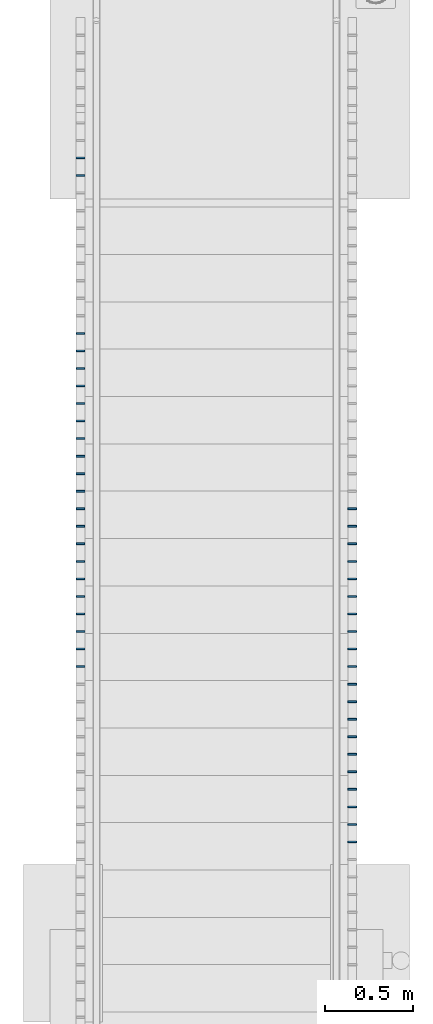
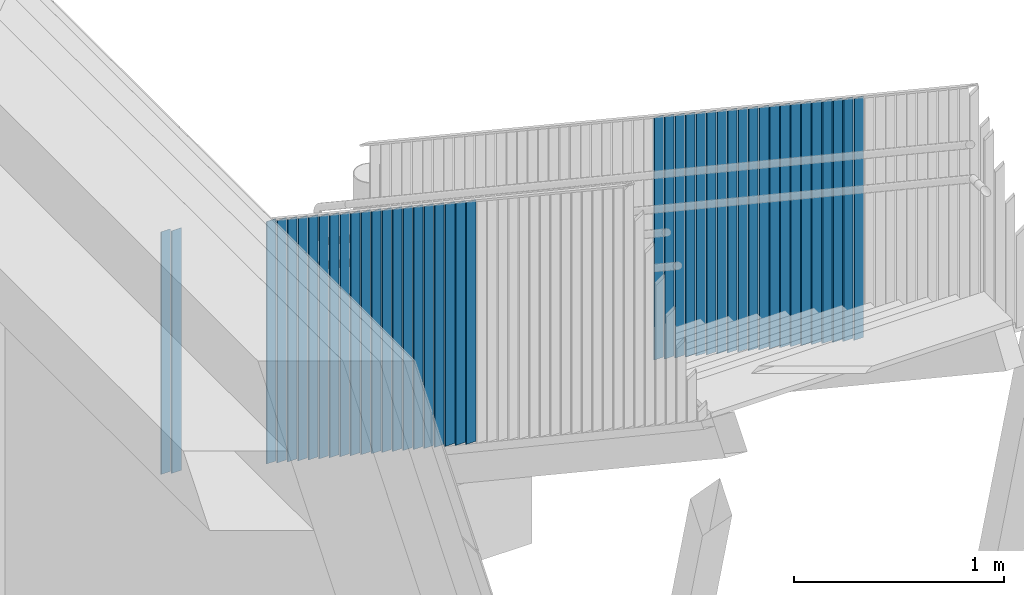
# One storey, part 79 of 418: 42 members, 2 elements without a shape of their own.
"""IFC2X3 building model written with IfcOpenShell, lengths in millimetres."""

from ifc_helpers import new_model, entity, si_unit, converted_unit, derived_unit, money_unit, direction, frame, origin_with_axes, place, context, subcontext, project, spatial, faceted_brep, material, type_object, element, aggregate, save


model = new_model("IFC2X3")

# Units and contexts
model_context = context("Model", 3, precision=0.01, world=origin_with_axes(), true_north=direction((0.0, 1.0)))
body_context = subcontext(model_context, "Body", "Model", "MODEL_VIEW")
ifc_project = project(units=[si_unit("LENGTHUNIT", "METRE", prefix="MILLI"), si_unit("AREAUNIT", "SQUARE_METRE"), si_unit("VOLUMEUNIT", "CUBIC_METRE"), converted_unit("PLANEANGLEUNIT", "DEGREE", entity("IfcPlaneAngleMeasure", 0.0174532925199), si_unit("PLANEANGLEUNIT", "RADIAN"), dimensions=[0, 0, 0, 0, 0, 0, 0]), si_unit("SOLIDANGLEUNIT", "STERADIAN"), money_unit("EUR"), converted_unit("TIMEUNIT", "Year", entity("IfcTimeMeasure", 31556926.0), si_unit("TIMEUNIT", "SECOND"), dimensions=[0, 0, 1, 0, 0, 0, 0]), si_unit("MASSUNIT", "GRAM", prefix="KILO"), si_unit("THERMODYNAMICTEMPERATUREUNIT", "DEGREE_CELSIUS"), si_unit("LUMINOUSINTENSITYUNIT", "LUMEN"), si_unit("ENERGYUNIT", "JOULE", prefix="MEGA"), derived_unit("THERMALCONDUCTANCEUNIT", [(si_unit("POWERUNIT", "WATT"), 1), (si_unit("LENGTHUNIT", "METRE"), -1), (si_unit("THERMODYNAMICTEMPERATUREUNIT", "KELVIN"), -1)]), derived_unit("SPECIFICHEATCAPACITYUNIT", [(si_unit("ENERGYUNIT", "JOULE"), 1), (si_unit("MASSUNIT", "GRAM", prefix="KILO"), -1), (si_unit("THERMODYNAMICTEMPERATUREUNIT", "KELVIN"), -1)]), derived_unit("MASSDENSITYUNIT", [(si_unit("MASSUNIT", "GRAM", prefix="KILO"), 1), (si_unit("VOLUMEUNIT", "CUBIC_METRE"), -1)])], contexts=[model_context])

# Site, building, storey
site_placement = place(None, origin_with_axes())
site = spatial("IfcSite", under=ifc_project, at=site_placement, Name="Paldiski mnt 245/1, Tallinn, Harjumaa", CompositionType="COMPLEX")
building_placement = place(site_placement, origin_with_axes())
building = spatial("IfcBuilding", under=site, at=building_placement, Name="RKAS Hoone üldnimetus (kasutust iseloomustav) -> IFC Project Manager -> SOLIBRI", CompositionType="ELEMENT")
storey_placement = place(building_placement, origin_with_axes())
storey = spatial("IfcBuildingStorey", under=building, at=storey_placement, Name="Esimene korrus", CompositionType="ELEMENT", Elevation=0.0)

# Railing, members
railing_type = type_object("IfcRailingType", Name="Railing Type", PredefinedType="NOTDEFINED")
railing_1_placement = place(storey_placement, frame((-15438.0000282, 781.88210964, -670.434782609), z_axis=(0.0, 0.0, 1.0), x_axis=(-0.773149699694, -0.634223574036, 0.0)))
railing_1 = element("IfcRailing", 1, at=railing_1_placement, inside=storey, type_object=railing_type, Name="Trepipiire", PredefinedType="NOTDEFINED")
ifc_material = material(Name="RAL7016")
member_type = type_object("IfcMemberType", Name="IfcMember", PredefinedType="POST")
member_1_placement = place(railing_1_placement, frame((-158.253858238, -232.337505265, 232.045088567), z_axis=(0.0, 0.0, 1.0), x_axis=(-0.773149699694, 0.634223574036, 0.0)))
member_1 = element("IfcMember", 2, at=member_1_placement, type_object=member_type, material=ifc_material, Name="Balustraad - 001", ObjectType="POST", context=body_context, shape_type="Brep", body=[
    faceted_brep([(25.0, -5.0, 85.0563604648), (25.0, 5.0, 78.3896937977), (25.0, 5.0, 1486.6747182), (25.0, -5.0, 1493.3252818), (-24.9999853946, 5.0, 78.3896937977), (-24.9999854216, -5.0, 85.0563604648), (-25.0, 5.0, 1486.6747182), (-25.0, -5.0, 1493.3252818)], [[[0, 1, 2, 3]], [[4, 1, 0, 5]], [[1, 4, 6, 2]], [[6, 7, 3, 2]], [[5, 0, 3, 7]], [[4, 5, 7, 6]]]),
])
member_2_placement = place(railing_1_placement, frame((-94.8315008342, -155.022535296, 298.550724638), z_axis=(0.0, 0.0, 1.0), x_axis=(-0.773149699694, 0.634223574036, 0.0)))
member_2 = element("IfcMember", 3, at=member_2_placement, type_object=member_type, material=ifc_material, Name="Balustraad - 001", ObjectType="POST", context=body_context, shape_type="Brep", body=[
    faceted_brep([(25.0, -5.0, 85.2173910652), (25.0, 5.0, 78.5507243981), (25.0, 5.0, 1486.6747182), (25.0, -5.0, 1493.3252818), (-24.9999856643, 5.0, 78.5507243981), (-24.9999856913, -5.0, 85.2173910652), (-25.0, 5.0, 1486.6747182), (-25.0, -5.0, 1493.3252818)], [[[0, 1, 2, 3]], [[4, 1, 0, 5]], [[1, 4, 6, 2]], [[6, 7, 3, 2]], [[5, 0, 3, 7]], [[4, 5, 7, 6]]]),
])
member_3_placement = place(railing_1_placement, frame((475.969715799, 540.812194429, 897.101449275), z_axis=(0.0, 0.0, 1.0), x_axis=(-0.773149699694, 0.634223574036, 0.0)))
member_3 = element("IfcMember", 4, at=member_3_placement, type_object=member_type, material=ifc_material, Name="Balustraad - 001", ObjectType="POST", context=body_context, shape_type="Brep", body=[
    faceted_brep([(25.0, -5.0, 86.6666664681), (25.0, 5.0, 79.9999998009), (25.0, 5.0, 1486.6747182), (25.0, -5.0, 1493.3252818), (-24.9999880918, 5.0, 79.9999998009), (-24.9999881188, -5.0, 86.6666664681), (-25.0, 5.0, 1486.6747182), (-25.0, -5.0, 1493.3252818)], [[[0, 1, 2, 3]], [[4, 1, 0, 5]], [[1, 4, 6, 2]], [[6, 7, 3, 2]], [[5, 0, 3, 7]], [[4, 5, 7, 6]]]),
])
member_4_placement = place(railing_1_placement, frame((539.392073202, 618.127164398, 963.607085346), z_axis=(0.0, 0.0, 1.0), x_axis=(-0.773149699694, 0.634223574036, 0.0)))
member_4 = element("IfcMember", 5, at=member_4_placement, type_object=member_type, material=ifc_material, Name="Balustraad - 001", ObjectType="POST", context=body_context, shape_type="Brep", body=[
    faceted_brep([(25.0, -5.0, 86.8276970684), (25.0, 5.0, 80.1610304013), (25.0, 5.0, 1486.6747182), (25.0, -5.0, 1493.3252818), (-24.9999883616, 5.0, 80.1610304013), (-24.9999883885, -5.0, 86.8276970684), (-25.0, 5.0, 1486.6747182), (-25.0, -5.0, 1493.3252818)], [[[0, 1, 2, 3]], [[4, 1, 0, 5]], [[1, 4, 6, 2]], [[6, 7, 3, 2]], [[5, 0, 3, 7]], [[4, 5, 7, 6]]]),
])
member_5_placement = place(railing_1_placement, frame((602.814430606, 695.442134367, 1030.11272142), z_axis=(0.0, 0.0, 1.0), x_axis=(-0.773149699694, 0.634223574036, 0.0)))
member_5 = element("IfcMember", 6, at=member_5_placement, type_object=member_type, material=ifc_material, Name="Balustraad - 001", ObjectType="POST", context=body_context, shape_type="Brep", body=[
    faceted_brep([(25.0, -5.0, 86.9887276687), (25.0, 5.0, 80.3220610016), (25.0, 5.0, 1486.6747182), (25.0, -5.0, 1493.3252818), (-24.9999886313, 5.0, 80.3220610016), (-24.9999886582, -5.0, 86.9887276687), (-25.0, 5.0, 1486.6747182), (-25.0, -5.0, 1493.3252818)], [[[0, 1, 2, 3]], [[4, 1, 0, 5]], [[1, 4, 6, 2]], [[6, 7, 3, 2]], [[5, 0, 3, 7]], [[4, 5, 7, 6]]]),
])
member_6_placement = place(railing_1_placement, frame((666.236788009, 772.757104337, 1096.61835749), z_axis=(0.0, 0.0, 1.0), x_axis=(-0.773149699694, 0.634223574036, 0.0)))
member_6 = element("IfcMember", 7, at=member_6_placement, type_object=member_type, material=ifc_material, Name="Balustraad - 001", ObjectType="POST", context=body_context, shape_type="Brep", body=[
    faceted_brep([(25.0, -5.0, 87.149758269), (25.0, 5.0, 80.4830916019), (25.0, 5.0, 1486.6747182), (25.0, -5.0, 1493.3252818), (-24.999988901, 5.0, 80.4830916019), (-24.999988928, -5.0, 87.149758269), (-25.0, 5.0, 1486.6747182), (-25.0, -5.0, 1493.3252818)], [[[0, 1, 2, 3]], [[4, 1, 0, 5]], [[1, 4, 6, 2]], [[6, 7, 3, 2]], [[5, 0, 3, 7]], [[4, 5, 7, 6]]]),
])
member_7_placement = place(railing_1_placement, frame((729.659145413, 850.072074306, 1163.12399356), z_axis=(0.0, 0.0, 1.0), x_axis=(-0.773149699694, 0.634223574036, 0.0)))
member_7 = element("IfcMember", 8, at=member_7_placement, type_object=member_type, material=ifc_material, Name="Balustraad - 001", ObjectType="POST", context=body_context, shape_type="Brep", body=[
    faceted_brep([(25.0, -5.0, 87.3107888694), (25.0, 5.0, 80.6441222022), (25.0, 5.0, 1486.6747182), (25.0, -5.0, 1493.3252818), (-24.9999891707, 5.0, 80.6441222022), (-24.9999891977, -5.0, 87.3107888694), (-25.0, 5.0, 1486.6747182), (-25.0, -5.0, 1493.3252818)], [[[0, 1, 2, 3]], [[4, 1, 0, 5]], [[1, 4, 6, 2]], [[6, 7, 3, 2]], [[5, 0, 3, 7]], [[4, 5, 7, 6]]]),
])
member_8_placement = place(railing_1_placement, frame((793.081502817, 927.387044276, 1229.62962963), z_axis=(0.0, 0.0, 1.0), x_axis=(-0.773149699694, 0.634223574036, 0.0)))
member_8 = element("IfcMember", 9, at=member_8_placement, type_object=member_type, material=ifc_material, Name="Balustraad - 001", ObjectType="POST", context=body_context, shape_type="Brep", body=[
    faceted_brep([(25.0, -5.0, 87.4718194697), (25.0, 5.0, 80.8051528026), (25.0, 5.0, 1486.6747182), (25.0, -5.0, 1493.3252818), (-24.9999894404, 5.0, 80.8051528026), (-24.9999894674, -5.0, 87.4718194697), (-25.0, 5.0, 1486.6747182), (-25.0, -5.0, 1493.3252818)], [[[0, 1, 2, 3]], [[4, 1, 0, 5]], [[1, 4, 6, 2]], [[6, 7, 3, 2]], [[5, 0, 3, 7]], [[4, 5, 7, 6]]]),
])
member_9_placement = place(railing_1_placement, frame((856.50386022, 1004.70201424, 1296.1352657), z_axis=(0.0, 0.0, 1.0), x_axis=(-0.773149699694, 0.634223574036, 0.0)))
member_9 = element("IfcMember", 10, at=member_9_placement, type_object=member_type, material=ifc_material, Name="Piirde Post - 001", ObjectType="POST", context=body_context, shape_type="Brep", body=[
    faceted_brep([(25.0, -5.0, 87.63285007), (25.0, 5.0, 80.9661834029), (25.0, 5.0, 1486.6747182), (25.0, -5.0, 1493.3252818), (-24.9999897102, 5.0, 80.9661834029), (-24.9999897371, -5.0, 87.63285007), (-25.0, 5.0, 1486.6747182), (-25.0, -5.0, 1493.3252818)], [[[0, 1, 2, 3]], [[4, 1, 0, 5]], [[1, 4, 6, 2]], [[6, 7, 3, 2]], [[5, 0, 3, 7]], [[4, 5, 7, 6]]]),
])
member_10_placement = place(railing_1_placement, frame((919.926217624, 1082.01698421, 1362.64090177), z_axis=(0.0, 0.0, 1.0), x_axis=(-0.773149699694, 0.634223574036, 0.0)))
member_10 = element("IfcMember", 11, at=member_10_placement, type_object=member_type, material=ifc_material, Name="Balustraad - 001", ObjectType="POST", context=body_context, shape_type="Brep", body=[
    faceted_brep([(25.0, -5.0, 87.7938806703), (25.0, 5.0, 81.1272140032), (25.0, 5.0, 1486.6747182), (25.0, -5.0, 1493.3252818), (-24.9999899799, 5.0, 81.1272140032), (-24.9999900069, -5.0, 87.7938806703), (-25.0, 5.0, 1486.6747182), (-25.0, -5.0, 1493.3252818)], [[[0, 1, 2, 3]], [[4, 1, 0, 5]], [[1, 4, 6, 2]], [[6, 7, 3, 2]], [[5, 0, 3, 7]], [[4, 5, 7, 6]]]),
])
member_11_placement = place(railing_1_placement, frame((983.348575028, 1159.33195418, 1429.14653784), z_axis=(0.0, 0.0, 1.0), x_axis=(-0.773149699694, 0.634223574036, 0.0)))
member_11 = element("IfcMember", 12, at=member_11_placement, type_object=member_type, material=ifc_material, Name="Balustraad - 001", ObjectType="POST", context=body_context, shape_type="Brep", body=[
    faceted_brep([(25.0, -5.0, 87.9549112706), (25.0, 5.0, 81.2882446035), (25.0, 5.0, 1486.6747182), (25.0, -5.0, 1493.3252818), (-24.9999902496, 5.0, 81.2882446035), (-24.9999902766, -5.0, 87.9549112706), (-25.0, 5.0, 1486.6747182), (-25.0, -5.0, 1493.3252818)], [[[0, 1, 2, 3]], [[4, 1, 0, 5]], [[1, 4, 6, 2]], [[6, 7, 3, 2]], [[5, 0, 3, 7]], [[4, 5, 7, 6]]]),
])
member_12_placement = place(railing_1_placement, frame((1046.77093243, 1236.64692415, 1495.65217391), z_axis=(0.0, 0.0, 1.0), x_axis=(-0.773149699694, 0.634223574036, 0.0)))
member_12 = element("IfcMember", 13, at=member_12_placement, type_object=member_type, material=ifc_material, Name="Balustraad - 001", ObjectType="POST", context=body_context, shape_type="Brep", body=[
    faceted_brep([(25.0, -5.0, 88.115941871), (25.0, 5.0, 81.4492752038), (25.0, 5.0, 1486.6747182), (25.0, -5.0, 1493.3252818), (-24.9999905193, 5.0, 81.4492752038), (-24.9999905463, -5.0, 88.115941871), (-25.0, 5.0, 1486.6747182), (-25.0, -5.0, 1493.3252818)], [[[0, 1, 2, 3]], [[4, 1, 0, 5]], [[1, 4, 6, 2]], [[6, 7, 3, 2]], [[5, 0, 3, 7]], [[4, 5, 7, 6]]]),
])
member_13_placement = place(railing_1_placement, frame((1110.19328983, 1313.96189412, 1562.15780998), z_axis=(0.0, 0.0, 1.0), x_axis=(-0.773149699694, 0.634223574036, 0.0)))
member_13 = element("IfcMember", 14, at=member_13_placement, type_object=member_type, material=ifc_material, Name="Balustraad - 001", ObjectType="POST", context=body_context, shape_type="Brep", body=[
    faceted_brep([(25.0, -5.0, 88.2769724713), (25.0, 5.0, 81.6103058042), (25.0, 5.0, 1486.6747182), (25.0, -5.0, 1493.3252818), (-24.999990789, 5.0, 81.6103058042), (-24.999990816, -5.0, 88.2769724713), (-25.0, 5.0, 1486.6747182), (-25.0, -5.0, 1493.3252818)], [[[0, 1, 2, 3]], [[4, 1, 0, 5]], [[1, 4, 6, 2]], [[6, 7, 3, 2]], [[5, 0, 3, 7]], [[4, 5, 7, 6]]]),
])
member_14_placement = place(railing_1_placement, frame((1173.61564724, 1391.27686409, 1628.66344605), z_axis=(0.0, 0.0, 1.0), x_axis=(-0.773149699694, 0.634223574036, 0.0)))
member_14 = element("IfcMember", 15, at=member_14_placement, type_object=member_type, material=ifc_material, Name="Balustraad - 001", ObjectType="POST", context=body_context, shape_type="Brep", body=[
    faceted_brep([(25.0, -5.0, 88.4380030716), (25.0, 5.0, 81.7713364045), (25.0, 5.0, 1486.6747182), (25.0, -5.0, 1493.3252818), (-24.9999910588, 5.0, 81.7713364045), (-24.9999910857, -5.0, 88.4380030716), (-25.0, 5.0, 1486.6747182), (-25.0, -5.0, 1493.3252818)], [[[0, 1, 2, 3]], [[4, 1, 0, 5]], [[1, 4, 6, 2]], [[6, 7, 3, 2]], [[5, 0, 3, 7]], [[4, 5, 7, 6]]]),
])
member_15_placement = place(railing_1_placement, frame((1237.03800464, 1468.59183406, 1695.16908213), z_axis=(0.0, 0.0, 1.0), x_axis=(-0.773149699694, 0.634223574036, 0.0)))
member_15 = element("IfcMember", 16, at=member_15_placement, type_object=member_type, material=ifc_material, Name="Balustraad - 001", ObjectType="POST", context=body_context, shape_type="Brep", body=[
    faceted_brep([(25.0, -5.0, 88.5990336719), (25.0, 5.0, 81.9323670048), (25.0, 5.0, 1486.6747182), (25.0, -5.0, 1493.3252818), (-24.9999913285, 5.0, 81.9323670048), (-24.9999913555, -5.0, 88.5990336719), (-25.0, 5.0, 1486.6747182), (-25.0, -5.0, 1493.3252818)], [[[0, 1, 2, 3]], [[4, 1, 0, 5]], [[1, 4, 6, 2]], [[6, 7, 3, 2]], [[5, 0, 3, 7]], [[4, 5, 7, 6]]]),
])
member_16_placement = place(railing_1_placement, frame((1300.46036205, 1545.90680403, 1761.6747182), z_axis=(0.0, 0.0, 1.0), x_axis=(-0.773149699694, 0.634223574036, 0.0)))
member_16 = element("IfcMember", 17, at=member_16_placement, type_object=member_type, material=ifc_material, Name="Balustraad - 001", ObjectType="POST", context=body_context, shape_type="Brep", body=[
    faceted_brep([(25.0, -5.0, 88.7600642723), (25.0, 5.0, 82.0933976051), (25.0, 5.0, 1486.6747182), (25.0, -5.0, 1493.3252818), (-24.9999915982, 5.0, 82.0933976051), (-24.9999916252, -5.0, 88.7600642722), (-25.0, 5.0, 1486.6747182), (-25.0, -5.0, 1493.3252818)], [[[0, 1, 2, 3]], [[4, 1, 0, 5]], [[1, 4, 6, 2]], [[6, 7, 3, 2]], [[5, 0, 3, 7]], [[4, 5, 7, 6]]]),
])
member_17_placement = place(railing_1_placement, frame((1363.88271945, 1623.221774, 1828.18035427), z_axis=(0.0, 0.0, 1.0), x_axis=(-0.773149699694, 0.634223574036, 0.0)))
member_17 = element("IfcMember", 18, at=member_17_placement, type_object=member_type, material=ifc_material, Name="Balustraad - 001", ObjectType="POST", context=body_context, shape_type="Brep", body=[
    faceted_brep([(25.0, -5.0, 88.9210948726), (25.0, 5.0, 82.2544282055), (25.0, 5.0, 1486.6747182), (25.0, -5.0, 1493.3252818), (-24.9999918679, 5.0, 82.2544282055), (-24.9999918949, -5.0, 88.9210948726), (-25.0, 5.0, 1486.6747182), (-25.0, -5.0, 1493.3252818)], [[[0, 1, 2, 3]], [[4, 1, 0, 5]], [[1, 4, 6, 2]], [[6, 7, 3, 2]], [[5, 0, 3, 7]], [[4, 5, 7, 6]]]),
])
member_18_placement = place(railing_1_placement, frame((1427.30507685, 1700.53674397, 1894.68599034), z_axis=(0.0, 0.0, 1.0), x_axis=(-0.773149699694, 0.634223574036, 0.0)))
member_18 = element("IfcMember", 19, at=member_18_placement, type_object=member_type, material=ifc_material, Name="Balustraad - 001", ObjectType="POST", context=body_context, shape_type="Brep", body=[
    faceted_brep([(25.0, -5.0, 89.0821254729), (25.0, 5.0, 82.4154588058), (25.0, 5.0, 1486.6747182), (25.0, -5.0, 1493.3252818), (-24.9999921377, 5.0, 82.4154588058), (-24.9999921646, -5.0, 89.0821254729), (-25.0, 5.0, 1486.6747182), (-25.0, -5.0, 1493.3252818)], [[[0, 1, 2, 3]], [[4, 1, 0, 5]], [[1, 4, 6, 2]], [[6, 7, 3, 2]], [[5, 0, 3, 7]], [[4, 5, 7, 6]]]),
])
member_19_placement = place(railing_1_placement, frame((1490.72743426, 1777.85171394, 1961.19162641), z_axis=(0.0, 0.0, 1.0), x_axis=(-0.773149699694, 0.634223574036, 0.0)))
member_19 = element("IfcMember", 20, at=member_19_placement, type_object=member_type, material=ifc_material, Name="Balustraad - 001", ObjectType="POST", context=body_context, shape_type="Brep", body=[
    faceted_brep([(25.0, -5.0, 89.2431560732), (25.0, 5.0, 82.5764894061), (25.0, 5.0, 1486.6747182), (25.0, -5.0, 1493.3252818), (-24.9999924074, 5.0, 82.5764894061), (-24.9999924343, -5.0, 89.2431560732), (-25.0, 5.0, 1486.6747182), (-25.0, -5.0, 1493.3252818)], [[[0, 1, 2, 3]], [[4, 1, 0, 5]], [[1, 4, 6, 2]], [[6, 7, 3, 2]], [[5, 0, 3, 7]], [[4, 5, 7, 6]]]),
])
member_20_placement = place(railing_1_placement, frame((1554.14979166, 1855.16668391, 2027.69726248), z_axis=(0.0, 0.0, 1.0), x_axis=(-0.773149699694, 0.634223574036, 0.0)))
member_20 = element("IfcMember", 21, at=member_20_placement, type_object=member_type, material=ifc_material, Name="Balustraad - 001", ObjectType="POST", context=body_context, shape_type="Brep", body=[
    faceted_brep([(25.0, -5.0, 89.4041866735), (25.0, 5.0, 82.7375200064), (25.0, 5.0, 1486.6747182), (25.0, -5.0, 1493.3252818), (-24.9999926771, 5.0, 82.7375200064), (-24.9999927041, -5.0, 89.4041866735), (-25.0, 5.0, 1486.6747182), (-25.0, -5.0, 1493.3252818)], [[[0, 1, 2, 3]], [[4, 1, 0, 5]], [[1, 4, 6, 2]], [[6, 7, 3, 2]], [[5, 0, 3, 7]], [[4, 5, 7, 6]]]),
])
member_21_placement = place(railing_1_placement, frame((1617.57214906, 1932.48165388, 2094.20289855), z_axis=(0.0, 0.0, 1.0), x_axis=(-0.773149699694, 0.634223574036, 0.0)))
member_21 = element("IfcMember", 22, at=member_21_placement, type_object=member_type, material=ifc_material, Name="Piirde Post - 001", ObjectType="POST", context=body_context, shape_type="Brep", body=[
    faceted_brep([(25.0, -5.0, 89.5652172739), (25.0, 5.0, 82.8985506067), (25.0, 5.0, 1486.6747182), (25.0, -5.0, 1493.3252818), (-24.9999929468, 5.0, 82.8985506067), (-24.9999929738, -5.0, 89.5652172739), (-25.0, 5.0, 1486.6747182), (-25.0, -5.0, 1493.3252818)], [[[0, 1, 2, 3]], [[4, 1, 0, 5]], [[1, 4, 6, 2]], [[6, 7, 3, 2]], [[5, 0, 3, 7]], [[4, 5, 7, 6]]]),
])
member_22_placement = place(railing_1_placement, frame((1680.99450647, 2009.79662385, 2160.70853462), z_axis=(0.0, 0.0, 1.0), x_axis=(-0.773149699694, 0.634223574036, 0.0)))
member_22 = element("IfcMember", 23, at=member_22_placement, type_object=member_type, material=ifc_material, Name="Balustraad - 001", ObjectType="POST", context=body_context, shape_type="Brep", body=[
    faceted_brep([(25.0, -5.0, 89.7262478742), (25.0, 5.0, 83.0595812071), (25.0, 5.0, 1486.6747182), (25.0, -5.0, 1493.3252818), (-24.9999932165, 5.0, 83.0595812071), (-24.9999932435, -5.0, 89.7262478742), (-25.0, 5.0, 1486.6747182), (-25.0, -5.0, 1493.3252818)], [[[0, 1, 2, 3]], [[4, 1, 0, 5]], [[1, 4, 6, 2]], [[6, 7, 3, 2]], [[5, 0, 3, 7]], [[4, 5, 7, 6]]]),
])
aggregate(railing_1, [member_1, member_2, member_3, member_4, member_5, member_6, member_7, member_8, member_9, member_10, member_11, member_12, member_13, member_14, member_15, member_16, member_17, member_18, member_19, member_20, member_21, member_22])

railing_2_placement = place(storey_placement, frame((-13938.0000282, 1623.82640275, -670.434782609), z_axis=(0.0, 0.0, 1.0), x_axis=(0.773149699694, 0.634223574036, 0.0)))
railing_2 = element("IfcRailing", 24, at=railing_2_placement, inside=storey, type_object=railing_type, Name="Trepipiire", PredefinedType="NOTDEFINED")
member_23_placement = place(railing_2_placement, frame((-1605.51672357, -1996.6220502, 1562.15780998), z_axis=(0.0, 0.0, 1.0), x_axis=(0.773149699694, -0.634223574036, 0.0)))
member_23 = element("IfcMember", 25, at=member_23_placement, type_object=member_type, material=ifc_material, Name="Balustraad - 001", ObjectType="POST", context=body_context, shape_type="Brep", body=[
    faceted_brep([(24.9999991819, -5.0, 88.2769724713), (24.9999991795, 5.0, 81.6103058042), (25.0, 5.0, 1486.6747182), (25.0, -5.0, 1493.3252818), (-25.0, 5.0, 81.6103058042), (-25.0, -5.0, 88.2769724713), (-25.0, 5.0, 1486.6747182), (-25.0, -5.0, 1493.3252818)], [[[0, 1, 2, 3]], [[4, 1, 0, 5]], [[1, 4, 6, 2]], [[6, 7, 3, 2]], [[5, 0, 3, 7]], [[4, 5, 7, 6]]]),
])
member_24_placement = place(railing_2_placement, frame((-1668.93908097, -2073.93702017, 1628.66344605), z_axis=(0.0, 0.0, 1.0), x_axis=(0.773149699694, -0.634223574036, 0.0)))
member_24 = element("IfcMember", 26, at=member_24_placement, type_object=member_type, material=ifc_material, Name="Balustraad - 001", ObjectType="POST", context=body_context, shape_type="Brep", body=[
    faceted_brep([(24.9999992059, -5.0, 88.4380030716), (24.9999992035, 5.0, 81.7713364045), (25.0, 5.0, 1486.6747182), (25.0, -5.0, 1493.3252818), (-25.0, 5.0, 81.7713364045), (-25.0, -5.0, 88.4380030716), (-25.0, 5.0, 1486.6747182), (-25.0, -5.0, 1493.3252818)], [[[0, 1, 2, 3]], [[4, 1, 0, 5]], [[1, 4, 6, 2]], [[6, 7, 3, 2]], [[5, 0, 3, 7]], [[4, 5, 7, 6]]]),
])
member_25_placement = place(railing_2_placement, frame((-1732.36143838, -2151.25199014, 1695.16908213), z_axis=(0.0, 0.0, 1.0), x_axis=(0.773149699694, -0.634223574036, 0.0)))
member_25 = element("IfcMember", 27, at=member_25_placement, type_object=member_type, material=ifc_material, Name="Balustraad - 001", ObjectType="POST", context=body_context, shape_type="Brep", body=[
    faceted_brep([(24.99999923, -5.0, 88.5990336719), (24.9999992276, 5.0, 81.9323670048), (25.0, 5.0, 1486.6747182), (25.0, -5.0, 1493.3252818), (-25.0, 5.0, 81.9323670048), (-25.0, -5.0, 88.5990336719), (-25.0, 5.0, 1486.6747182), (-25.0, -5.0, 1493.3252818)], [[[0, 1, 2, 3]], [[4, 1, 0, 5]], [[1, 4, 6, 2]], [[6, 7, 3, 2]], [[5, 0, 3, 7]], [[4, 5, 7, 6]]]),
])
member_26_placement = place(railing_2_placement, frame((-1795.78379578, -2228.56696011, 1761.6747182), z_axis=(0.0, 0.0, 1.0), x_axis=(0.773149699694, -0.634223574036, 0.0)))
member_26 = element("IfcMember", 28, at=member_26_placement, type_object=member_type, material=ifc_material, Name="Balustraad - 001", ObjectType="POST", context=body_context, shape_type="Brep", body=[
    faceted_brep([(24.999999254, -5.0, 88.7600642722), (24.9999992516, 5.0, 82.0933976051), (25.0, 5.0, 1486.6747182), (25.0, -5.0, 1493.3252818), (-25.0, 5.0, 82.0933976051), (-25.0, -5.0, 88.7600642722), (-25.0, 5.0, 1486.6747182), (-25.0, -5.0, 1493.3252818)], [[[0, 1, 2, 3]], [[4, 1, 0, 5]], [[1, 4, 6, 2]], [[6, 7, 3, 2]], [[5, 0, 3, 7]], [[4, 5, 7, 6]]]),
])
member_27_placement = place(railing_2_placement, frame((-1859.20615318, -2305.88193008, 1828.18035427), z_axis=(0.0, 0.0, 1.0), x_axis=(0.773149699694, -0.634223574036, 0.0)))
member_27 = element("IfcMember", 29, at=member_27_placement, type_object=member_type, material=ifc_material, Name="Balustraad - 001", ObjectType="POST", context=body_context, shape_type="Brep", body=[
    faceted_brep([(24.999999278, -5.0, 88.9210948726), (24.9999992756, 5.0, 82.2544282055), (25.0, 5.0, 1486.6747182), (25.0, -5.0, 1493.3252818), (-25.0, 5.0, 82.2544282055), (-25.0, -5.0, 88.9210948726), (-25.0, 5.0, 1486.6747182), (-25.0, -5.0, 1493.3252818)], [[[0, 1, 2, 3]], [[4, 1, 0, 5]], [[1, 4, 6, 2]], [[6, 7, 3, 2]], [[5, 0, 3, 7]], [[4, 5, 7, 6]]]),
])
member_28_placement = place(railing_2_placement, frame((-1922.62851059, -2383.19690005, 1894.68599034), z_axis=(0.0, 0.0, 1.0), x_axis=(0.773149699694, -0.634223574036, 0.0)))
member_28 = element("IfcMember", 30, at=member_28_placement, type_object=member_type, material=ifc_material, Name="Balustraad - 001", ObjectType="POST", context=body_context, shape_type="Brep", body=[
    faceted_brep([(24.999999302, -5.0, 89.0821254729), (24.9999992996, 5.0, 82.4154588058), (25.0, 5.0, 1486.6747182), (25.0, -5.0, 1493.3252818), (-25.0, 5.0, 82.4154588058), (-25.0, -5.0, 89.0821254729), (-25.0, 5.0, 1486.6747182), (-25.0, -5.0, 1493.3252818)], [[[0, 1, 2, 3]], [[4, 1, 0, 5]], [[1, 4, 6, 2]], [[6, 7, 3, 2]], [[5, 0, 3, 7]], [[4, 5, 7, 6]]]),
])
member_29_placement = place(railing_2_placement, frame((-1986.05086799, -2460.51187002, 1961.19162641), z_axis=(0.0, 0.0, 1.0), x_axis=(0.773149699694, -0.634223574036, 0.0)))
member_29 = element("IfcMember", 31, at=member_29_placement, type_object=member_type, material=ifc_material, Name="Balustraad - 001", ObjectType="POST", context=body_context, shape_type="Brep", body=[
    faceted_brep([(24.9999993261, -5.0, 89.2431560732), (24.9999993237, 5.0, 82.5764894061), (25.0, 5.0, 1486.6747182), (25.0, -5.0, 1493.3252818), (-25.0, 5.0, 82.5764894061), (-25.0, -5.0, 89.2431560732), (-25.0, 5.0, 1486.6747182), (-25.0, -5.0, 1493.3252818)], [[[0, 1, 2, 3]], [[4, 1, 0, 5]], [[1, 4, 6, 2]], [[6, 7, 3, 2]], [[5, 0, 3, 7]], [[4, 5, 7, 6]]]),
])
member_30_placement = place(railing_2_placement, frame((-2049.47322539, -2537.82683999, 2027.69726248), z_axis=(0.0, 0.0, 1.0), x_axis=(0.773149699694, -0.634223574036, 0.0)))
member_30 = element("IfcMember", 32, at=member_30_placement, type_object=member_type, material=ifc_material, Name="Balustraad - 001", ObjectType="POST", context=body_context, shape_type="Brep", body=[
    faceted_brep([(24.9999993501, -5.0, 89.4041866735), (24.9999993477, 5.0, 82.7375200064), (25.0, 5.0, 1486.6747182), (25.0, -5.0, 1493.3252818), (-25.0, 5.0, 82.7375200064), (-25.0, -5.0, 89.4041866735), (-25.0, 5.0, 1486.6747182), (-25.0, -5.0, 1493.3252818)], [[[0, 1, 2, 3]], [[4, 1, 0, 5]], [[1, 4, 6, 2]], [[6, 7, 3, 2]], [[5, 0, 3, 7]], [[4, 5, 7, 6]]]),
])
member_31_placement = place(railing_2_placement, frame((-2112.8955828, -2615.14180996, 2094.20289855), z_axis=(0.0, 0.0, 1.0), x_axis=(0.773149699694, -0.634223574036, 0.0)))
member_31 = element("IfcMember", 33, at=member_31_placement, type_object=member_type, material=ifc_material, Name="Piirde Post - 001", ObjectType="POST", context=body_context, shape_type="Brep", body=[
    faceted_brep([(24.9999993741, -5.0, 89.5652172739), (24.9999993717, 5.0, 82.8985506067), (25.0, 5.0, 1486.6747182), (25.0, -5.0, 1493.3252818), (-25.0, 5.0, 82.8985506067), (-25.0, -5.0, 89.5652172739), (-25.0, 5.0, 1486.6747182), (-25.0, -5.0, 1493.3252818)], [[[0, 1, 2, 3]], [[4, 1, 0, 5]], [[1, 4, 6, 2]], [[6, 7, 3, 2]], [[5, 0, 3, 7]], [[4, 5, 7, 6]]]),
])
member_32_placement = place(railing_2_placement, frame((-2176.3179402, -2692.45677993, 2160.70853462), z_axis=(0.0, 0.0, 1.0), x_axis=(0.773149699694, -0.634223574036, 0.0)))
member_32 = element("IfcMember", 34, at=member_32_placement, type_object=member_type, material=ifc_material, Name="Balustraad - 001", ObjectType="POST", context=body_context, shape_type="Brep", body=[
    faceted_brep([(24.9999993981, -5.0, 89.7262478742), (24.9999993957, 5.0, 83.0595812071), (25.0, 5.0, 1486.6747182), (25.0, -5.0, 1493.3252818), (-25.0, 5.0, 83.0595812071), (-25.0, -5.0, 89.7262478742), (-25.0, 5.0, 1486.6747182), (-25.0, -5.0, 1493.3252818)], [[[0, 1, 2, 3]], [[4, 1, 0, 5]], [[1, 4, 6, 2]], [[6, 7, 3, 2]], [[5, 0, 3, 7]], [[4, 5, 7, 6]]]),
])
member_33_placement = place(railing_2_placement, frame((-2239.7402976, -2769.7717499, 2227.21417069), z_axis=(0.0, 0.0, 1.0), x_axis=(0.773149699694, -0.634223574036, 0.0)))
member_33 = element("IfcMember", 35, at=member_33_placement, type_object=member_type, material=ifc_material, Name="Balustraad - 001", ObjectType="POST", context=body_context, shape_type="Brep", body=[
    faceted_brep([(24.9999994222, -5.0, 89.8872784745), (24.9999994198, 5.0, 83.2206118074), (25.0, 5.0, 1486.6747182), (25.0, -5.0, 1493.3252818), (-25.0, 5.0, 83.2206118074), (-25.0, -5.0, 89.8872784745), (-25.0, 5.0, 1486.6747182), (-25.0, -5.0, 1493.3252818)], [[[0, 1, 2, 3]], [[4, 1, 0, 5]], [[1, 4, 6, 2]], [[6, 7, 3, 2]], [[5, 0, 3, 7]], [[4, 5, 7, 6]]]),
])
member_34_placement = place(railing_2_placement, frame((-2303.16265501, -2847.08671987, 2293.71980676), z_axis=(0.0, 0.0, 1.0), x_axis=(0.773149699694, -0.634223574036, 0.0)))
member_34 = element("IfcMember", 36, at=member_34_placement, type_object=member_type, material=ifc_material, Name="Balustraad - 001", ObjectType="POST", context=body_context, shape_type="Brep", body=[
    faceted_brep([(24.9999994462, -5.0, 90.0483090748), (24.9999994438, 5.0, 83.3816424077), (25.0, 5.0, 1486.6747182), (25.0, -5.0, 1493.3252818), (-25.0, 5.0, 83.3816424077), (-25.0, -5.0, 90.0483090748), (-25.0, 5.0, 1486.6747182), (-25.0, -5.0, 1493.3252818)], [[[0, 1, 2, 3]], [[4, 1, 0, 5]], [[1, 4, 6, 2]], [[6, 7, 3, 2]], [[5, 0, 3, 7]], [[4, 5, 7, 6]]]),
])
member_35_placement = place(railing_2_placement, frame((-2366.58501241, -2924.40168984, 2360.22544283), z_axis=(0.0, 0.0, 1.0), x_axis=(0.773149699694, -0.634223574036, 0.0)))
member_35 = element("IfcMember", 37, at=member_35_placement, type_object=member_type, material=ifc_material, Name="Balustraad - 001", ObjectType="POST", context=body_context, shape_type="Brep", body=[
    faceted_brep([(24.9999994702, -5.0, 90.2093396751), (24.9999994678, 5.0, 83.542673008), (25.0, 5.0, 1486.6747182), (25.0, -5.0, 1493.3252818), (-25.0, 5.0, 83.542673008), (-25.0, -5.0, 90.2093396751), (-25.0, 5.0, 1486.6747182), (-25.0, -5.0, 1493.3252818)], [[[0, 1, 2, 3]], [[4, 1, 0, 5]], [[1, 4, 6, 2]], [[6, 7, 3, 2]], [[5, 0, 3, 7]], [[4, 5, 7, 6]]]),
])
member_36_placement = place(railing_2_placement, frame((-2430.00736982, -3001.71665981, 2426.7310789), z_axis=(0.0, 0.0, 1.0), x_axis=(0.773149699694, -0.634223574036, 0.0)))
member_36 = element("IfcMember", 38, at=member_36_placement, type_object=member_type, material=ifc_material, Name="Balustraad - 001", ObjectType="POST", context=body_context, shape_type="Brep", body=[
    faceted_brep([(24.9999994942, -5.0, 90.3703702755), (24.9999994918, 5.0, 83.7037036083), (25.0, 5.0, 1486.6747182), (25.0, -5.0, 1493.3252818), (-25.0, 5.0, 83.7037036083), (-25.0, -5.0, 90.3703702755), (-25.0, 5.0, 1486.6747182), (-25.0, -5.0, 1493.3252818)], [[[0, 1, 2, 3]], [[4, 1, 0, 5]], [[1, 4, 6, 2]], [[6, 7, 3, 2]], [[5, 0, 3, 7]], [[4, 5, 7, 6]]]),
])
member_37_placement = place(railing_2_placement, frame((-2493.42972722, -3079.03162978, 2493.23671498), z_axis=(0.0, 0.0, 1.0), x_axis=(0.773149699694, -0.634223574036, 0.0)))
member_37 = element("IfcMember", 39, at=member_37_placement, type_object=member_type, material=ifc_material, Name="Balustraad - 001", ObjectType="POST", context=body_context, shape_type="Brep", body=[
    faceted_brep([(24.9999995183, -5.0, 90.5314008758), (24.9999995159, 5.0, 83.8647342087), (25.0, 5.0, 1486.6747182), (25.0, -5.0, 1493.3252818), (-25.0, 5.0, 83.8647342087), (-25.0, -5.0, 90.5314008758), (-25.0, 5.0, 1486.6747182), (-25.0, -5.0, 1493.3252818)], [[[0, 1, 2, 3]], [[4, 1, 0, 5]], [[1, 4, 6, 2]], [[6, 7, 3, 2]], [[5, 0, 3, 7]], [[4, 5, 7, 6]]]),
])
member_38_placement = place(railing_2_placement, frame((-2556.85208462, -3156.34659975, 2559.74235105), z_axis=(0.0, 0.0, 1.0), x_axis=(0.773149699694, -0.634223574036, 0.0)))
member_38 = element("IfcMember", 40, at=member_38_placement, type_object=member_type, material=ifc_material, Name="Balustraad - 001", ObjectType="POST", context=body_context, shape_type="Brep", body=[
    faceted_brep([(24.9999995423, -5.0, 90.6924314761), (24.9999995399, 5.0, 84.025764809), (25.0, 5.0, 1486.6747182), (25.0, -5.0, 1493.3252818), (-25.0, 5.0, 84.025764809), (-25.0, -5.0, 90.6924314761), (-25.0, 5.0, 1486.6747182), (-25.0, -5.0, 1493.3252818)], [[[0, 1, 2, 3]], [[4, 1, 0, 5]], [[1, 4, 6, 2]], [[6, 7, 3, 2]], [[5, 0, 3, 7]], [[4, 5, 7, 6]]]),
])
member_39_placement = place(railing_2_placement, frame((-2620.27444203, -3233.66156971, 2626.24798712), z_axis=(0.0, 0.0, 1.0), x_axis=(0.773149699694, -0.634223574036, 0.0)))
member_39 = element("IfcMember", 41, at=member_39_placement, type_object=member_type, material=ifc_material, Name="Balustraad - 001", ObjectType="POST", context=body_context, shape_type="Brep", body=[
    faceted_brep([(24.9999995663, -5.0, 90.8534620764), (24.9999995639, 5.0, 84.1867954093), (25.0, 5.0, 1486.6747182), (25.0, -5.0, 1493.3252818), (-25.0, 5.0, 84.1867954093), (-25.0, -5.0, 90.8534620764), (-25.0, 5.0, 1486.6747182), (-25.0, -5.0, 1493.3252818)], [[[0, 1, 2, 3]], [[4, 1, 0, 5]], [[1, 4, 6, 2]], [[6, 7, 3, 2]], [[5, 0, 3, 7]], [[4, 5, 7, 6]]]),
])
member_40_placement = place(railing_2_placement, frame((-2683.69679943, -3310.97653968, 2692.75362319), z_axis=(0.0, 0.0, 1.0), x_axis=(0.773149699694, -0.634223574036, 0.0)))
member_40 = element("IfcMember", 42, at=member_40_placement, type_object=member_type, material=ifc_material, Name="Balustraad - 001", ObjectType="POST", context=body_context, shape_type="Brep", body=[
    faceted_brep([(24.9999995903, -5.0, 91.0144926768), (24.9999995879, 5.0, 84.3478260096), (25.0, 5.0, 1486.6747182), (25.0, -5.0, 1493.3252818), (-25.0, 5.0, 84.3478260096), (-25.0, -5.0, 91.0144926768), (-25.0, 5.0, 1486.6747182), (-25.0, -5.0, 1493.3252818)], [[[0, 1, 2, 3]], [[4, 1, 0, 5]], [[1, 4, 6, 2]], [[6, 7, 3, 2]], [[5, 0, 3, 7]], [[4, 5, 7, 6]]]),
])
member_41_placement = place(railing_2_placement, frame((-2747.11915683, -3388.29150965, 2759.25925926), z_axis=(0.0, 0.0, 1.0), x_axis=(0.773149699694, -0.634223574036, 0.0)))
member_41 = element("IfcMember", 43, at=member_41_placement, type_object=member_type, material=ifc_material, Name="Balustraad - 001", ObjectType="POST", context=body_context, shape_type="Brep", body=[
    faceted_brep([(24.9999996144, -5.0, 91.1755232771), (24.999999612, 5.0, 84.50885661), (25.0, 5.0, 1486.6747182), (25.0, -5.0, 1493.3252818), (-25.0, 5.0, 84.50885661), (-25.0, -5.0, 91.1755232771), (-25.0, 5.0, 1486.6747182), (-25.0, -5.0, 1493.3252818)], [[[0, 1, 2, 3]], [[4, 1, 0, 5]], [[1, 4, 6, 2]], [[6, 7, 3, 2]], [[5, 0, 3, 7]], [[4, 5, 7, 6]]]),
])
member_42_placement = place(railing_2_placement, frame((-2810.54151424, -3465.60647962, 2825.76489533), z_axis=(0.0, 0.0, 1.0), x_axis=(0.773149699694, -0.634223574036, 0.0)))
member_42 = element("IfcMember", 44, at=member_42_placement, type_object=member_type, material=ifc_material, Name="Balustraad - 001", ObjectType="POST", context=body_context, shape_type="Brep", body=[
    faceted_brep([(24.9999996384, -5.0, 91.3365538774), (24.999999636, 5.0, 84.6698872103), (25.0, 5.0, 1486.6747182), (25.0, -5.0, 1493.3252818), (-25.0, 5.0, 84.6698872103), (-25.0, -5.0, 91.3365538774), (-25.0, 5.0, 1486.6747182), (-25.0, -5.0, 1493.3252818)], [[[0, 1, 2, 3]], [[4, 1, 0, 5]], [[1, 4, 6, 2]], [[6, 7, 3, 2]], [[5, 0, 3, 7]], [[4, 5, 7, 6]]]),
])
aggregate(railing_2, [member_23, member_24, member_25, member_26, member_27, member_28, member_29, member_30, member_31, member_32, member_33, member_34, member_35, member_36, member_37, member_38, member_39, member_40, member_41, member_42])

save(model, "model.ifc")
